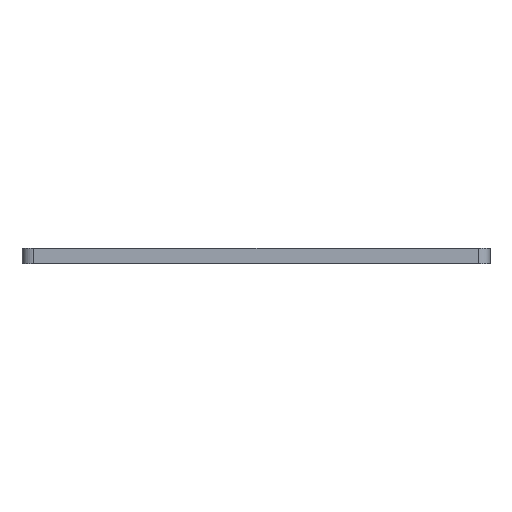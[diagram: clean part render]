
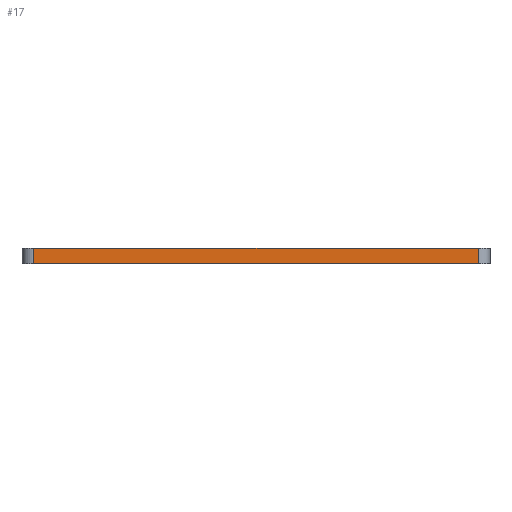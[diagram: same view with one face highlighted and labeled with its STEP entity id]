
A CAD part, front view. The second image highlights one B-rep face of the part: STEP entity #17.
In plain terms, the highlighted planar face has unit normal (0, -1, 0).
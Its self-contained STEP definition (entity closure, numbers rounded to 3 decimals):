
#17 = ADVANCED_FACE('',(#18),#32,.F.);
#18 = FACE_BOUND('',#19,.F.);
#19 = EDGE_LOOP('',(#20,#55,#83,#111));
#20 = ORIENTED_EDGE('',*,*,#21,.F.);
#21 = EDGE_CURVE('',#22,#24,#26,.T.);
#22 = VERTEX_POINT('',#23);
#23 = CARTESIAN_POINT('',(-57.,-134.4,60.));
#24 = VERTEX_POINT('',#25);
#25 = CARTESIAN_POINT('',(57.,-134.4,60.));
#26 = SURFACE_CURVE('',#27,(#31,#43),.PCURVE_S1.);
#27 = LINE('',#28,#29);
#28 = CARTESIAN_POINT('',(-60.,-134.4,60.));
#29 = VECTOR('',#30,1.);
#30 = DIRECTION('',(1.,0.,0.));
#31 = PCURVE('',#32,#37);
#32 = PLANE('',#33);
#33 = AXIS2_PLACEMENT_3D('',#34,#35,#36);
#34 = CARTESIAN_POINT('',(-60.,-134.4,60.));
#35 = DIRECTION('',(0.,1.,0.));
#36 = DIRECTION('',(1.,0.,0.));
#37 = DEFINITIONAL_REPRESENTATION('',(#38),#42);
#38 = LINE('',#39,#40);
#39 = CARTESIAN_POINT('',(0.,0.));
#40 = VECTOR('',#41,1.);
#41 = DIRECTION('',(1.,0.));
#42 = ( GEOMETRIC_REPRESENTATION_CONTEXT(2) 
PARAMETRIC_REPRESENTATION_CONTEXT() REPRESENTATION_CONTEXT('2D SPACE',''
  ) );
#43 = PCURVE('',#44,#49);
#44 = PLANE('',#45);
#45 = AXIS2_PLACEMENT_3D('',#46,#47,#48);
#46 = CARTESIAN_POINT('',(0.,-67.5,60.));
#47 = DIRECTION('',(0.,0.,1.));
#48 = DIRECTION('',(1.,0.,-0.));
#49 = DEFINITIONAL_REPRESENTATION('',(#50),#54);
#50 = LINE('',#51,#52);
#51 = CARTESIAN_POINT('',(-60.,-66.9));
#52 = VECTOR('',#53,1.);
#53 = DIRECTION('',(1.,0.));
#54 = ( GEOMETRIC_REPRESENTATION_CONTEXT(2) 
PARAMETRIC_REPRESENTATION_CONTEXT() REPRESENTATION_CONTEXT('2D SPACE',''
  ) );
#55 = ORIENTED_EDGE('',*,*,#56,.T.);
#56 = EDGE_CURVE('',#22,#57,#59,.T.);
#57 = VERTEX_POINT('',#58);
#58 = CARTESIAN_POINT('',(-57.,-134.4,64.));
#59 = SURFACE_CURVE('',#60,(#64,#71),.PCURVE_S1.);
#60 = LINE('',#61,#62);
#61 = CARTESIAN_POINT('',(-57.,-134.4,60.));
#62 = VECTOR('',#63,1.);
#63 = DIRECTION('',(0.,0.,1.));
#64 = PCURVE('',#32,#65);
#65 = DEFINITIONAL_REPRESENTATION('',(#66),#70);
#66 = LINE('',#67,#68);
#67 = CARTESIAN_POINT('',(3.,0.));
#68 = VECTOR('',#69,1.);
#69 = DIRECTION('',(0.,-1.));
#70 = ( GEOMETRIC_REPRESENTATION_CONTEXT(2) 
PARAMETRIC_REPRESENTATION_CONTEXT() REPRESENTATION_CONTEXT('2D SPACE',''
  ) );
#71 = PCURVE('',#72,#77);
#72 = CYLINDRICAL_SURFACE('',#73,3.);
#73 = AXIS2_PLACEMENT_3D('',#74,#75,#76);
#74 = CARTESIAN_POINT('',(-57.,-131.4,60.));
#75 = DIRECTION('',(0.,0.,1.));
#76 = DIRECTION('',(0.,-1.,0.));
#77 = DEFINITIONAL_REPRESENTATION('',(#78),#82);
#78 = LINE('',#79,#80);
#79 = CARTESIAN_POINT('',(-0.,0.));
#80 = VECTOR('',#81,1.);
#81 = DIRECTION('',(-0.,1.));
#82 = ( GEOMETRIC_REPRESENTATION_CONTEXT(2) 
PARAMETRIC_REPRESENTATION_CONTEXT() REPRESENTATION_CONTEXT('2D SPACE',''
  ) );
#83 = ORIENTED_EDGE('',*,*,#84,.T.);
#84 = EDGE_CURVE('',#57,#85,#87,.T.);
#85 = VERTEX_POINT('',#86);
#86 = CARTESIAN_POINT('',(57.,-134.4,64.));
#87 = SURFACE_CURVE('',#88,(#92,#99),.PCURVE_S1.);
#88 = LINE('',#89,#90);
#89 = CARTESIAN_POINT('',(-60.,-134.4,64.));
#90 = VECTOR('',#91,1.);
#91 = DIRECTION('',(1.,0.,0.));
#92 = PCURVE('',#32,#93);
#93 = DEFINITIONAL_REPRESENTATION('',(#94),#98);
#94 = LINE('',#95,#96);
#95 = CARTESIAN_POINT('',(0.,-4.));
#96 = VECTOR('',#97,1.);
#97 = DIRECTION('',(1.,0.));
#98 = ( GEOMETRIC_REPRESENTATION_CONTEXT(2) 
PARAMETRIC_REPRESENTATION_CONTEXT() REPRESENTATION_CONTEXT('2D SPACE',''
  ) );
#99 = PCURVE('',#100,#105);
#100 = PLANE('',#101);
#101 = AXIS2_PLACEMENT_3D('',#102,#103,#104);
#102 = CARTESIAN_POINT('',(0.,-67.5,64.));
#103 = DIRECTION('',(0.,0.,1.));
#104 = DIRECTION('',(1.,0.,-0.));
#105 = DEFINITIONAL_REPRESENTATION('',(#106),#110);
#106 = LINE('',#107,#108);
#107 = CARTESIAN_POINT('',(-60.,-66.9));
#108 = VECTOR('',#109,1.);
#109 = DIRECTION('',(1.,0.));
#110 = ( GEOMETRIC_REPRESENTATION_CONTEXT(2) 
PARAMETRIC_REPRESENTATION_CONTEXT() REPRESENTATION_CONTEXT('2D SPACE',''
  ) );
#111 = ORIENTED_EDGE('',*,*,#112,.F.);
#112 = EDGE_CURVE('',#24,#85,#113,.T.);
#113 = SURFACE_CURVE('',#114,(#118,#125),.PCURVE_S1.);
#114 = LINE('',#115,#116);
#115 = CARTESIAN_POINT('',(57.,-134.4,60.));
#116 = VECTOR('',#117,1.);
#117 = DIRECTION('',(0.,0.,1.));
#118 = PCURVE('',#32,#119);
#119 = DEFINITIONAL_REPRESENTATION('',(#120),#124);
#120 = LINE('',#121,#122);
#121 = CARTESIAN_POINT('',(117.,0.));
#122 = VECTOR('',#123,1.);
#123 = DIRECTION('',(0.,-1.));
#124 = ( GEOMETRIC_REPRESENTATION_CONTEXT(2) 
PARAMETRIC_REPRESENTATION_CONTEXT() REPRESENTATION_CONTEXT('2D SPACE',''
  ) );
#125 = PCURVE('',#126,#131);
#126 = CYLINDRICAL_SURFACE('',#127,3.);
#127 = AXIS2_PLACEMENT_3D('',#128,#129,#130);
#128 = CARTESIAN_POINT('',(57.,-131.4,60.));
#129 = DIRECTION('',(0.,0.,1.));
#130 = DIRECTION('',(0.,-1.,0.));
#131 = DEFINITIONAL_REPRESENTATION('',(#132),#136);
#132 = LINE('',#133,#134);
#133 = CARTESIAN_POINT('',(0.,0.));
#134 = VECTOR('',#135,1.);
#135 = DIRECTION('',(0.,1.));
#136 = ( GEOMETRIC_REPRESENTATION_CONTEXT(2) 
PARAMETRIC_REPRESENTATION_CONTEXT() REPRESENTATION_CONTEXT('2D SPACE',''
  ) );
